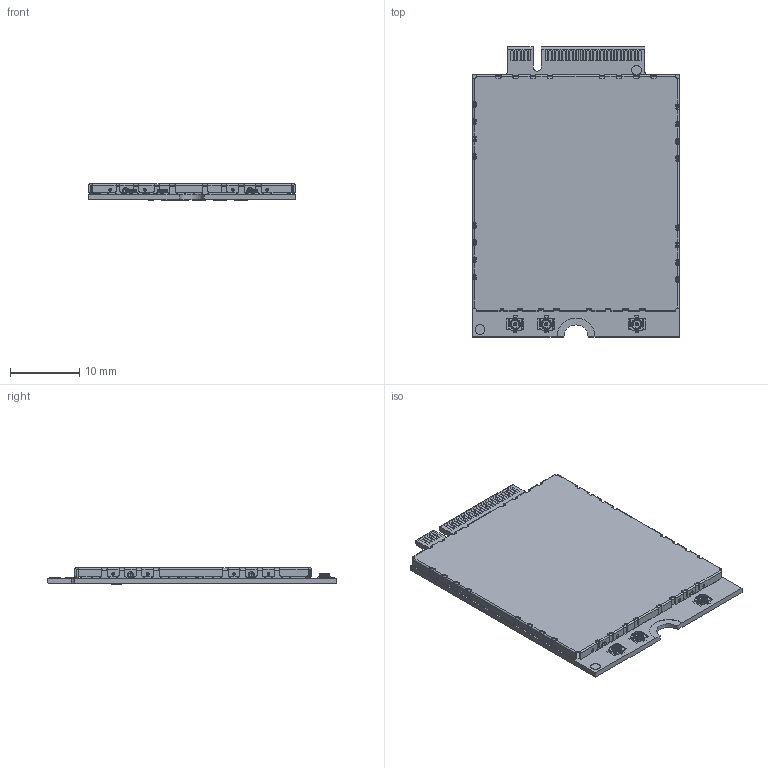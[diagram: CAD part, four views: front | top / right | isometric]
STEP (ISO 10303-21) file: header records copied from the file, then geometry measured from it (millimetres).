
FILE_DESCRIPTION((''),'2;1');
FILE_NAME('LTE_M2_PCB_ASM','2022-05-26T',('Ghost_Wang'),(''),'CREO PARAMETRIC BY PTC INC, 2018360','CREO PARAMETRIC BY PTC INC, 2018360','');
FILE_SCHEMA(('AUTOMOTIVE_DESIGN { 1 0 10303 214 1 1 1 1 }'));
Products named in the file (65): LTE_M2_PCB; RF_CONN-2335000027W-I-PEX_5; LTE_M2_PCB_SH-FRAME; LTE_M2_PCB_SH-COVER; LTE_M2_PCB_SH-CASE_ASSY_ASM; D_SE20N10ED-TH-WS_3P_SMD; D_01005_SMD; ESD_CPDZC2V5AHT-HF_DFN0603_2P_S; TP_OB0P9X1P45MM_SMD; TP_10_SMD; C_0603_H1P0_SMD; L_ZHFL201208A21R0MS_2P_SMD; FILT_LF1005-W2R5NBAT-LF_6P_SMD; FILT_B39162B8939L210_10P_SMD; IC_BGA5M1BN6_TSNP-6-10_6P_SMD; IC_EMH10T2R_SOT-563_6P_SMD; XTAL_OY38470002_4P_SMD; IC_AP7353-31CV4-7_4P_SMD; IC_WP68-M002C-MFOCMW_WLCSP_12P_; C_JDK063BBJ225MP-F_0201_SMD; FILT_B39222M5012D310_6P_SMD; IC_AW13612FLR_6P_SMD; IC_AP7350D-18CF4-7_4P_SMD; IC_74AUP1G08FW4-7_X2-DFN1010_6P; C_0201_H0P55_SMD; ESD_ESD5611N-2-TR_2P_SMD; C_0402_H0P9_SMD; TP_OB0P8X1P35MM_2P_SMD; FIDUCIAL_TOP_SMD; R_0603_SMD; L_LSCNB1608HKTR56MD_2P_SMD; IC_JSFCBB3YH3BBG-425A_162P_SMD; FILT_FI252M0829H2-T_9P_SMD; IC_QET-6105-0_WLNSP_24P_SMD; FILT_SAFFW1G56AB0E0A_4P_SMD; IC_SKY53728-21_21P_SMD; IC_SKY58258-21_30P_SMD; IC_SKY58260-11_79P_SMD; IC_QM12113SR_9P_SMD; FILT_DEA163800LT-5129A1_4P_SMD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
Assembly tree (528 placements, depth 3):
  LTE_M2_PCB_ASM
    LTE_M2_PCB
    RF_CONN-2335000027W-I-PEX_5  x3
    LTE_M2_PCB_SH-CASE_ASSY_ASM
      LTE_M2_PCB_SH-FRAME
      LTE_M2_PCB_SH-COVER
    IE66_GA_0505_1100_ASM
      D_SE20N10ED-TH-WS_3P_SMD
      D_01005_SMD
      ESD_CPDZC2V5AHT-HF_DFN0603_2P_S
      TP_OB0P9X1P45MM_SMD  x10
      TP_10_SMD
      C_0603_H1P0_SMD  x2
      L_ZHFL201208A21R0MS_2P_SMD
      FILT_LF1005-W2R5NBAT-LF_6P_SMD
      FILT_B39162B8939L210_10P_SMD
      IC_BGA5M1BN6_TSNP-6-10_6P_SMD
      IC_EMH10T2R_SOT-563_6P_SMD  x2
      XTAL_OY38470002_4P_SMD
      IC_AP7353-31CV4-7_4P_SMD
      IC_WP68-M002C-MFOCMW_WLCSP_12P_
      C_JDK063BBJ225MP-F_0201_SMD  x7
      FILT_B39222M5012D310_6P_SMD
      IC_AW13612FLR_6P_SMD
      IC_AP7350D-18CF4-7_4P_SMD
      IC_74AUP1G08FW4-7_X2-DFN1010_6P
      C_0201_H0P55_SMD  x4
      ESD_ESD5611N-2-TR_2P_SMD
      C_0402_H0P9_SMD  x2
      TP_OB0P8X1P35MM_2P_SMD
      FIDUCIAL_TOP_SMD  x4
      R_0603_SMD
      L_LSCNB1608HKTR56MD_2P_SMD
      IC_JSFCBB3YH3BBG-425A_162P_SMD
      FILT_FI252M0829H2-T_9P_SMD  x2
      IC_QET-6105-0_WLNSP_24P_SMD
      FILT_SAFFW1G56AB0E0A_4P_SMD  x2
      IC_SKY53728-21_21P_SMD
      IC_SKY58258-21_30P_SMD
      IC_SKY58260-11_79P_SMD
      IC_QM12113SR_9P_SMD
      FILT_DEA163800LT-5129A1_4P_SMD  x2
      IC_SDR660_WLPSP_180P_SMD
      R_NTCG064EF104FTBX_2P_SMD  x2
      D_SESDMS05LC-TH-WS_2P_SMD
      R_0402_SMD  x3
      IC_SKY53735-61_47P_SMD
      IC_SKY58096-11_LGA_62P_SMD
      L_0201_SMD  x32
      TP_R40_SMD  x8
      C_0402_LW1P2X0P7_H0P7_SMD  x22
      R_NTCG104EF104FT1X_0402  x2
      TP_6_SMD  x14
      IC_PMD-9655-0-116-WLNSP-HR02002
      L_HTQH20160H-1R0MSR-39_2P_SMD  x5
      C_0402_H0P6_SMD  x2
      IC_SDX-12-1_PSP_506P_SMD
      C_01005_H0P22_SMD  x37
      C_GRMMDXR60J105ME05D_2P_SMD  x11
      C_0402_SMD  x9
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Bounding box: 30 x 42 x 2.4 mm (x, y, z)
Volume: 1700.2 mm3; surface area: 8042.5 mm2
Topology: 526 solids, 526 shells, 5675 faces, 12849 edges, 8320 vertices
Faces by surface type: plane 4837, cylinder 639, bspline 80, cone 55, torus 32, sphere 32
Entity records: 116663 total; most frequent: CARTESIAN_POINT 18547, DIRECTION 16054, ORIENTED_EDGE 14014, EDGE_CURVE 7007, VECTOR 5536, LINE 5536, AXIS2_PLACEMENT_3D 5259, VERTEX_POINT 4460
